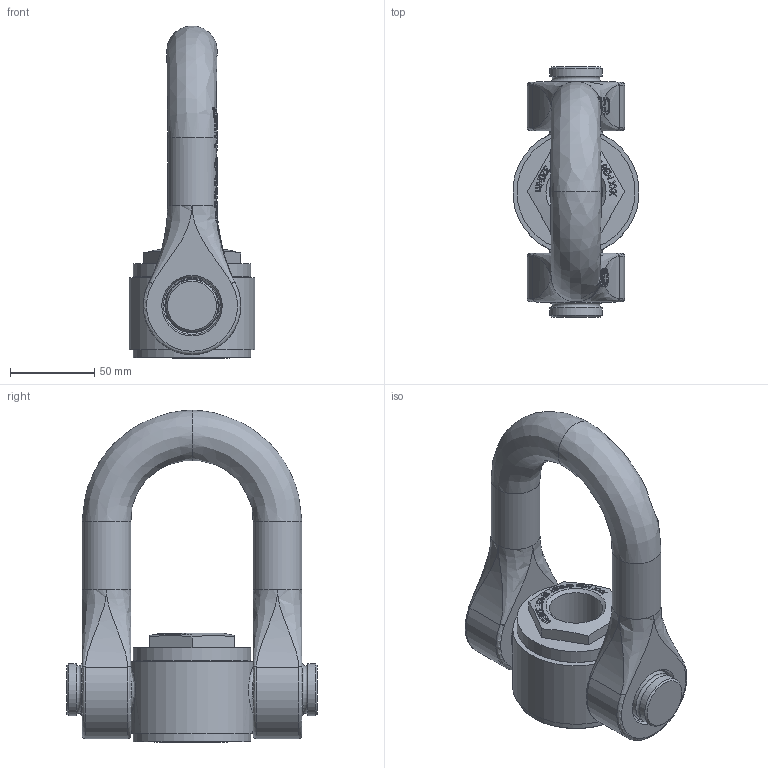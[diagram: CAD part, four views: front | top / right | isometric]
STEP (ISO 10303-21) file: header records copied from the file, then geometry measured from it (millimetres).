
FILE_DESCRIPTION(/* description */ (''),/* implementation_level */ '2;1');
FILE_NAME(/* name */ 'W:\CODIPRO\DOCUMENTS\Plans A NE PAS DIFFUSER !!!\Inventor\Standard Inventor\Produit Fini Inventor\SS_FE_DSS\Fichiers 3D\SS FE DSS M36.stp',/* time_stamp */ '2017-10-06T14:45:26+02:00',/* author */ ('rklenes'),/* organization */ (''),/* preprocessor_version */ 'ST-DEVELOPER v16.5',/* originating_system */ 'Autodesk Inventor 2017',/* authorisation */ '');
FILE_SCHEMA (('AUTOMOTIVE_DESIGN { 1 0 10303 214 3 1 1 }'));
Length unit declared in the file: millimetre
Products named in the file (5): SS FE DSS M36; DSM_N3; DSM_N3X51; DSE_M45A; SS_FE_DSA_M36
Assembly tree (4 placements, depth 2):
  SS FE DSS M36
    DSM_N3
    DSM_N3X51
    DSE_M45A
    SS_FE_DSA_M36
Bounding box: 74.72 x 148.5 x 197 mm (x, y, z)
Volume: 583811.2 mm3; surface area: 119179.1 mm2
Topology: 4 solids, 4 shells, 827 faces, 2309 edges, 1535 vertices
Faces by surface type: plane 356, bspline 341, cylinder 68, sphere 26, cone 23, torus 13
Full cylindrical faces by diameter (mm): 29 x2, 31 x4, 31.67 x1, 32.25 x2, 45 x3, 45.2 x1, 50.7 x2, 51 x3, 70 x2
Entity records: 33285 total; most frequent: CARTESIAN_POINT 13919, ORIENTED_EDGE 4492, DIRECTION 3155, EDGE_CURVE 2246, VERTEX_POINT 1523, AXIS2_PLACEMENT_3D 1192, EDGE_LOOP 931, FACE_OUTER_BOUND 826
